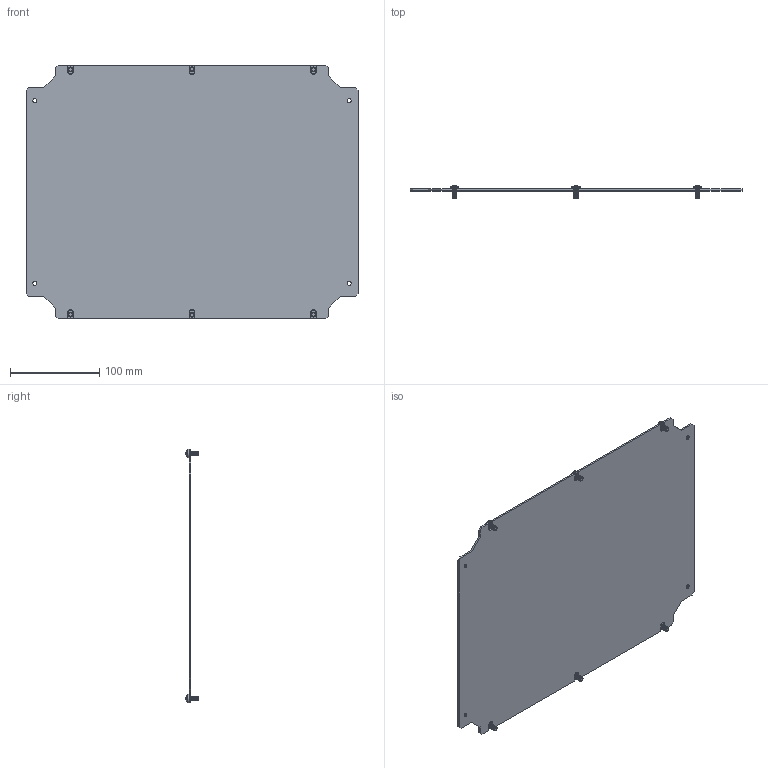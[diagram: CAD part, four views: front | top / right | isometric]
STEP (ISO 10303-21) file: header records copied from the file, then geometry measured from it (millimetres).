
FILE_DESCRIPTION (( 'STEP AP214' ), '1' );
FILE_NAME ('943.243--DM Small 400 W x 300 H Mounting Plate.STEP', '2020-12-03T10:25:25', ( '' ), ( '' ), 'SwSTEP 2.0', 'SolidWorks 2019', '' );
FILE_SCHEMA (( 'AUTOMOTIVE_DESIGN' ));
Length unit declared in the file: millimetre
Products named in the file (10): M5x10; 943.243--DM Small 400 W x 300 H Mounting Plate; DM Small Montaj Plakasi 2mm_PP 20.0109 - 400x300; M5x10_ISO 7045 - M5 x 10 - Z --- 10C; DM Small Montaj Plakasi 2mm
Assembly tree (7 placements, depth 2):
  M5x10
  M5x10
  M5x10
  943.243--DM Small 400 W x 300 H Mounting Plate
    DM Small Montaj Plakasi 2mm_PP 20.0109 - 400x300
    M5x10_ISO 7045 - M5 x 10 - Z --- 10C  x6
  M5x10
Bounding box: 373 x 13.63 x 285.12 mm (x, y, z)
Volume: 207967.4 mm3; surface area: 211380.8 mm2
Topology: 7 solids, 7 shells, 673 faces, 1773 edges, 1108 vertices
Faces by surface type: cone 312, cylinder 173, plane 152, torus 24, sphere 12
Entity records: 5477 total; most frequent: DIRECTION 977, CARTESIAN_POINT 922, ORIENTED_EDGE 882, EDGE_CURVE 441, AXIS2_PLACEMENT_3D 370, VERTEX_POINT 283, LINE 237, VECTOR 237
